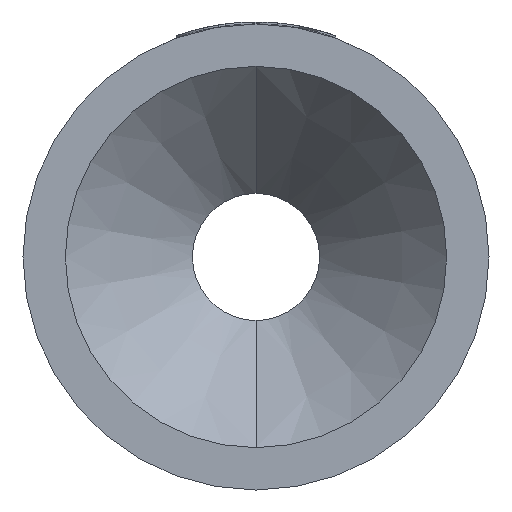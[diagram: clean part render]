
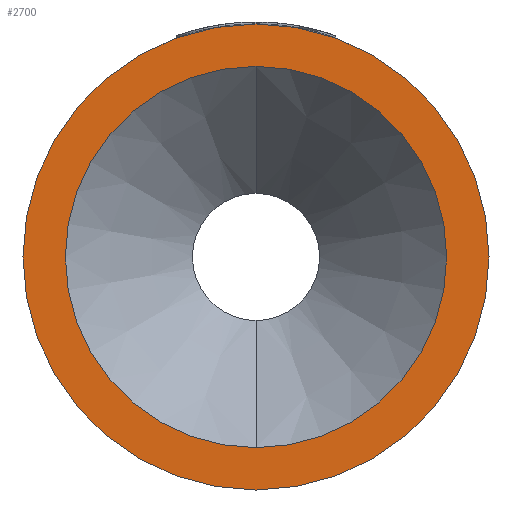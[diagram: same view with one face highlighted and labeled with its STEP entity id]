
A CAD part, left-side view. The second image highlights one B-rep face of the part: STEP entity #2700.
In plain terms, the highlighted planar face has unit normal (-1, 0, 0).
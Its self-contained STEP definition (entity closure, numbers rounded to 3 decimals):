
#48 = FACE_BOUND ( 'NONE', #470, .T. ) ;
#264 = AXIS2_PLACEMENT_3D ( 'NONE', #783, #762, #737 ) ;
#287 = CIRCLE ( 'NONE', #264, 55. ) ;
#366 = EDGE_LOOP ( 'NONE', ( #871, #2822 ) ) ;
#470 = EDGE_LOOP ( 'NONE', ( #3284, #539 ) ) ;
#539 = ORIENTED_EDGE ( 'NONE', *, *, #1675, .F. ) ;
#617 = DIRECTION ( 'NONE',  ( -1., 0., 0. ) ) ;
#621 = CARTESIAN_POINT ( 'NONE',  ( 0., 0., 0. ) ) ;
#659 = DIRECTION ( 'NONE',  ( 1., 0., 0. ) ) ;
#737 = DIRECTION ( 'NONE',  ( 0., 0., 1. ) ) ;
#762 = DIRECTION ( 'NONE',  ( -1., 0., 0. ) ) ;
#783 = CARTESIAN_POINT ( 'NONE',  ( 0., 0., 0. ) ) ;
#795 = CARTESIAN_POINT ( 'NONE',  ( 0., 45., 0. ) ) ;
#828 = VERTEX_POINT ( 'NONE', #2400 ) ;
#871 = ORIENTED_EDGE ( 'NONE', *, *, #3343, .T. ) ;
#970 = DIRECTION ( 'NONE',  ( 0., 0., -1. ) ) ;
#990 = AXIS2_PLACEMENT_3D ( 'NONE', #3439, #3430, #3416 ) ;
#1003 = DIRECTION ( 'NONE',  ( 0., 0., 1. ) ) ;
#1009 = DIRECTION ( 'NONE',  ( -1., 0., 0. ) ) ;
#1015 = CARTESIAN_POINT ( 'NONE',  ( 0., 0., 0. ) ) ;
#1041 = CARTESIAN_POINT ( 'NONE',  ( 0., 0., -45. ) ) ;
#1426 = CIRCLE ( 'NONE', #990, 55. ) ;
#1428 = CIRCLE ( 'NONE', #2264, 45. ) ;
#1608 = AXIS2_PLACEMENT_3D ( 'NONE', #795, #659, #970 ) ;
#1675 = EDGE_CURVE ( 'NONE', #1677, #2069, #3342, .T. ) ;
#1677 = VERTEX_POINT ( 'NONE', #1041 ) ;
#1714 = DIRECTION ( 'NONE',  ( 0., 0., 1. ) ) ;
#1735 = EDGE_CURVE ( 'NONE', #2069, #1677, #1428, .T. ) ;
#2069 = VERTEX_POINT ( 'NONE', #2526 ) ;
#2264 = AXIS2_PLACEMENT_3D ( 'NONE', #621, #617, #1714 ) ;
#2400 = CARTESIAN_POINT ( 'NONE',  ( 0., 0., 55. ) ) ;
#2435 = AXIS2_PLACEMENT_3D ( 'NONE', #1015, #1009, #1003 ) ;
#2438 = CARTESIAN_POINT ( 'NONE',  ( 0., 0., -55. ) ) ;
#2526 = CARTESIAN_POINT ( 'NONE',  ( 0., 0., 45. ) ) ;
#2613 = EDGE_CURVE ( 'NONE', #3047, #828, #287, .T. ) ;
#2618 = FACE_OUTER_BOUND ( 'NONE', #366, .T. ) ;
#2700 = ADVANCED_FACE ( 'NONE', ( #48, #2618 ), #2823, .F. ) ;
#2822 = ORIENTED_EDGE ( 'NONE', *, *, #2613, .T. ) ;
#2823 = PLANE ( 'NONE',  #1608 ) ;
#3047 = VERTEX_POINT ( 'NONE', #2438 ) ;
#3284 = ORIENTED_EDGE ( 'NONE', *, *, #1735, .F. ) ;
#3342 = CIRCLE ( 'NONE', #2435, 45. ) ;
#3343 = EDGE_CURVE ( 'NONE', #828, #3047, #1426, .T. ) ;
#3416 = DIRECTION ( 'NONE',  ( 0., 0., 1. ) ) ;
#3430 = DIRECTION ( 'NONE',  ( -1., 0., 0. ) ) ;
#3439 = CARTESIAN_POINT ( 'NONE',  ( 0., 0., 0. ) ) ;
